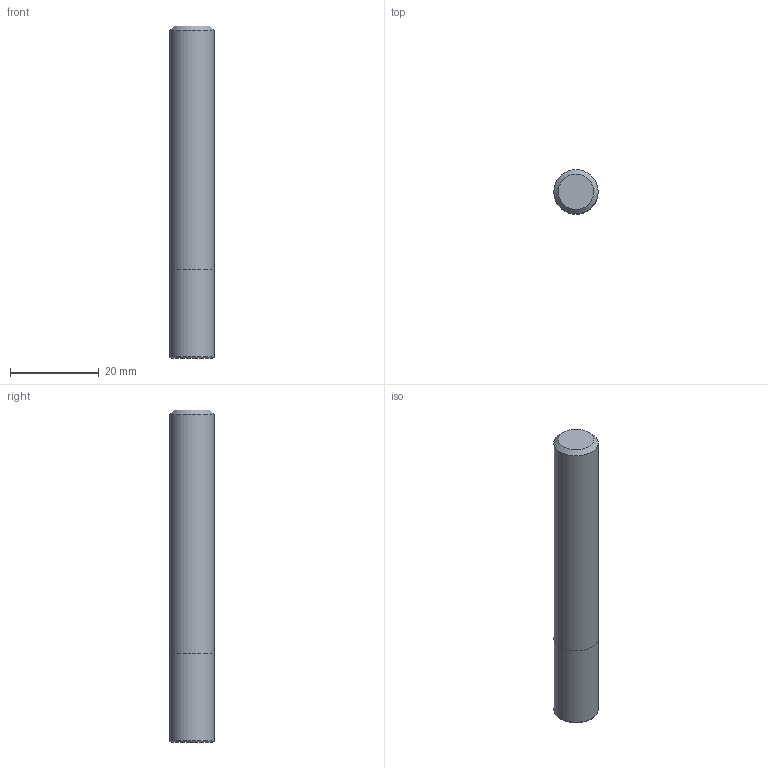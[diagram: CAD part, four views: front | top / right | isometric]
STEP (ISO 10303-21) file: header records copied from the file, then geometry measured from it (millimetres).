
FILE_DESCRIPTION((''),'2;1');
FILE_NAME('C:\Users\nsx150\AppData\Local\Temp\Mastercam 2021\Y59DX2IYLB\TEMP.step','2021-04-08T17:16:42',(''),(''),'STEP Write','Mastercam 2021 ... CNC Software, Inc.','');
FILE_SCHEMA(('AUTOMOTIVE_DESIGN'));
Length unit declared in the file: millimetre
Products named in the file (1): None
Bounding box: 10 x 10 x 75 mm (x, y, z)
Volume: 5875.2 mm3; surface area: 2646.6 mm2
Topology: 2 solids, 2 shells, 8 faces, 10 edges, 6 vertices
Faces by surface type: plane 4, cylinder 2, torus 1, cone 1
Full cylindrical faces by diameter (mm): 10 x2
Entity records: 190 total; most frequent: DIRECTION 32, CARTESIAN_POINT 22, AXIS2_PLACEMENT_3D 16, ORIENTED_EDGE 12, EDGE_LOOP 12, STYLED_ITEM 11, ADVANCED_FACE 8, FACE_BOUND 7
